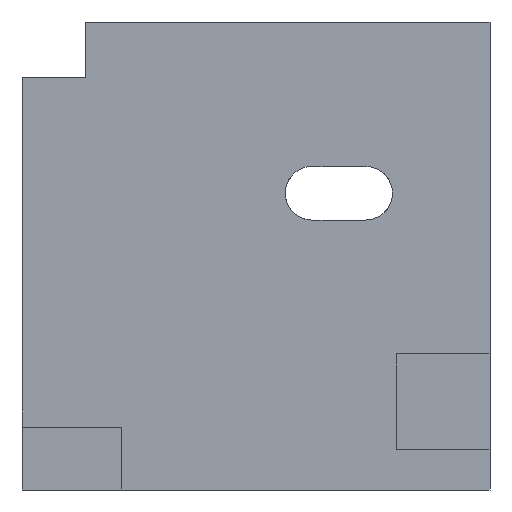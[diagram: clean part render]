
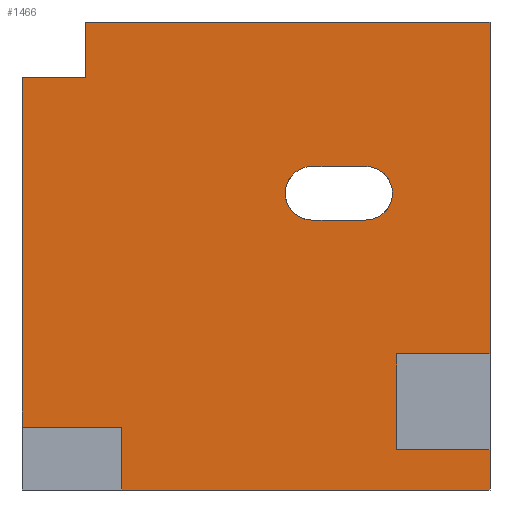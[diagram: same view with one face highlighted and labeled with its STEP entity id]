
A CAD part, left-side view. The second image highlights one B-rep face of the part: STEP entity #1466.
In plain terms, the highlighted planar face has unit normal (-1, 0, 0).
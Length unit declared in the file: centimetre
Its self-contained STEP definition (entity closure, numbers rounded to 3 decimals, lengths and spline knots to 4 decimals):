
#2 = DIRECTION ( 'NONE',  ( 0., -1., 0. ) ) ;
#5 = DIRECTION ( 'NONE',  ( 0., 0., 1. ) ) ;
#15 = EDGE_CURVE ( 'NONE', #85, #389, #82, .T. ) ;
#27 = EDGE_CURVE ( 'NONE', #1217, #275, #325, .T. ) ;
#45 = DIRECTION ( 'NONE',  ( 0., 0., -1. ) ) ;
#54 = CARTESIAN_POINT ( 'NONE',  ( 0., 0., 1000. ) ) ;
#61 = ORIENTED_EDGE ( 'NONE', *, *, #15, .F. ) ;
#69 = VECTOR ( 'NONE', #1062, 100. ) ;
#70 = AXIS2_PLACEMENT_3D ( 'NONE', #1176, #1537, #1673 ) ;
#82 = LINE ( 'NONE', #1356, #1614 ) ;
#85 = VERTEX_POINT ( 'NONE', #1403 ) ;
#97 = CARTESIAN_POINT ( 'NONE',  ( 0., 863.4377, 882.0177 ) ) ;
#128 = CARTESIAN_POINT ( 'NONE',  ( 0., 863.4377, 882.0177 ) ) ;
#167 = ORIENTED_EDGE ( 'NONE', *, *, #1345, .F. ) ;
#174 = LINE ( 'NONE', #54, #228 ) ;
#181 = LINE ( 'NONE', #1368, #1025 ) ;
#197 = VERTEX_POINT ( 'NONE', #97 ) ;
#205 = CIRCLE ( 'NONE', #70, 57.11 ) ;
#208 = EDGE_CURVE ( 'NONE', #327, #1482, #1549, .T. ) ;
#211 = ORIENTED_EDGE ( 'NONE', *, *, #610, .F. ) ;
#228 = VECTOR ( 'NONE', #45, 100. ) ;
#230 = CARTESIAN_POINT ( 'NONE',  ( 0., 265.3615, 633.9658 ) ) ;
#252 = LINE ( 'NONE', #128, #1509 ) ;
#261 = VERTEX_POINT ( 'NONE', #690 ) ;
#263 = CARTESIAN_POINT ( 'NONE',  ( 0., 380.7137, 691.0757 ) ) ;
#266 = CARTESIAN_POINT ( 'NONE',  ( 0., 199.0319, 85.9414 ) ) ;
#275 = VERTEX_POINT ( 'NONE', #821 ) ;
#286 = VECTOR ( 'NONE', #1098, 100. ) ;
#317 = DIRECTION ( 'NONE',  ( 0., 1., 0. ) ) ;
#325 = LINE ( 'NONE', #1615, #1286 ) ;
#327 = VERTEX_POINT ( 'NONE', #266 ) ;
#329 = EDGE_CURVE ( 'NONE', #1680, #327, #792, .T. ) ;
#356 = CARTESIAN_POINT ( 'NONE',  ( 0., 380.7137, 691.0757 ) ) ;
#389 = VERTEX_POINT ( 'NONE', #1606 ) ;
#418 = VERTEX_POINT ( 'NONE', #863 ) ;
#424 = ORIENTED_EDGE ( 'NONE', *, *, #538, .T. ) ;
#430 = EDGE_CURVE ( 'NONE', #942, #1217, #716, .T. ) ;
#439 = ORIENTED_EDGE ( 'NONE', *, *, #1588, .F. ) ;
#443 = DIRECTION ( 'NONE',  ( 0., 0., -1. ) ) ;
#538 = EDGE_CURVE ( 'NONE', #261, #275, #1401, .T. ) ;
#540 = LINE ( 'NONE', #772, #837 ) ;
#544 = CARTESIAN_POINT ( 'NONE',  ( 0., 199.0319, 85.9414 ) ) ;
#547 = FACE_BOUND ( 'NONE', #1239, .T. ) ;
#559 = VECTOR ( 'NONE', #1034, 100. ) ;
#576 = CARTESIAN_POINT ( 'NONE',  ( 0., 787.3237, 0. ) ) ;
#610 = EDGE_CURVE ( 'NONE', #683, #418, #782, .T. ) ;
#614 = VECTOR ( 'NONE', #947, 100. ) ;
#637 = EDGE_CURVE ( 'NONE', #197, #770, #252, .T. ) ;
#640 = ORIENTED_EDGE ( 'NONE', *, *, #208, .F. ) ;
#649 = VECTOR ( 'NONE', #674, 100. ) ;
#652 = LINE ( 'NONE', #1163, #559 ) ;
#674 = DIRECTION ( 'NONE',  ( 0., 1., 0. ) ) ;
#683 = VERTEX_POINT ( 'NONE', #1448 ) ;
#685 = CARTESIAN_POINT ( 'NONE',  ( 0., 1000., 1000. ) ) ;
#690 = CARTESIAN_POINT ( 'NONE',  ( 0., 1000., 882.0177 ) ) ;
#699 = EDGE_CURVE ( 'NONE', #942, #1612, #790, .T. ) ;
#703 = DIRECTION ( 'NONE',  ( 0., -1., 0. ) ) ;
#716 = LINE ( 'NONE', #576, #286 ) ;
#767 = EDGE_CURVE ( 'NONE', #1110, #683, #181, .T. ) ;
#770 = VERTEX_POINT ( 'NONE', #1230 ) ;
#772 = CARTESIAN_POINT ( 'NONE',  ( 0., 863.4377, 882.0177 ) ) ;
#775 = ORIENTED_EDGE ( 'NONE', *, *, #329, .F. ) ;
#782 = CIRCLE ( 'NONE', #1000, 57.11 ) ;
#790 = LINE ( 'NONE', #1694, #1383 ) ;
#792 = LINE ( 'NONE', #544, #69 ) ;
#801 = CARTESIAN_POINT ( 'NONE',  ( 0., 0., 290.797 ) ) ;
#821 = CARTESIAN_POINT ( 'NONE',  ( 0., 1000., 134.5369 ) ) ;
#837 = VECTOR ( 'NONE', #2, 100. ) ;
#863 = CARTESIAN_POINT ( 'NONE',  ( 0., 265.3615, 691.0757 ) ) ;
#935 = DIRECTION ( 'NONE',  ( 0., -1., 0. ) ) ;
#942 = VERTEX_POINT ( 'NONE', #1695 ) ;
#947 = DIRECTION ( 'NONE',  ( 0., -1., 0. ) ) ;
#994 = ORIENTED_EDGE ( 'NONE', *, *, #1096, .F. ) ;
#996 = DIRECTION ( 'NONE',  ( 0., 0., -1. ) ) ;
#998 = AXIS2_PLACEMENT_3D ( 'NONE', #685, #1487, #443 ) ;
#1000 = AXIS2_PLACEMENT_3D ( 'NONE', #230, #1506, #1274 ) ;
#1025 = VECTOR ( 'NONE', #703, 100. ) ;
#1032 = ORIENTED_EDGE ( 'NONE', *, *, #27, .F. ) ;
#1034 = DIRECTION ( 'NONE',  ( 0., -1., 0. ) ) ;
#1062 = DIRECTION ( 'NONE',  ( 0., 0., -1. ) ) ;
#1096 = EDGE_CURVE ( 'NONE', #770, #85, #652, .T. ) ;
#1098 = DIRECTION ( 'NONE',  ( 0., 0., 1. ) ) ;
#1110 = VERTEX_POINT ( 'NONE', #1548 ) ;
#1118 = VERTEX_POINT ( 'NONE', #356 ) ;
#1129 = ORIENTED_EDGE ( 'NONE', *, *, #1367, .F. ) ;
#1147 = EDGE_CURVE ( 'NONE', #1482, #1612, #174, .T. ) ;
#1157 = VECTOR ( 'NONE', #1394, 100. ) ;
#1163 = CARTESIAN_POINT ( 'NONE',  ( 0., 1000., 1000. ) ) ;
#1176 = CARTESIAN_POINT ( 'NONE',  ( 0., 380.7137, 633.9658 ) ) ;
#1209 = DIRECTION ( 'NONE',  ( 0., 1., 0. ) ) ;
#1217 = VERTEX_POINT ( 'NONE', #1291 ) ;
#1225 = ORIENTED_EDGE ( 'NONE', *, *, #637, .F. ) ;
#1230 = CARTESIAN_POINT ( 'NONE',  ( 0., 863.4377, 1000. ) ) ;
#1239 = EDGE_LOOP ( 'NONE', ( #1398, #211, #1496, #1129 ) ) ;
#1274 = DIRECTION ( 'NONE',  ( 0., 0., -1. ) ) ;
#1280 = CARTESIAN_POINT ( 'NONE',  ( 0., 1000., 1000. ) ) ;
#1286 = VECTOR ( 'NONE', #317, 100. ) ;
#1291 = CARTESIAN_POINT ( 'NONE',  ( 0., 787.3237, 134.5369 ) ) ;
#1306 = EDGE_CURVE ( 'NONE', #418, #1118, #1433, .T. ) ;
#1308 = ORIENTED_EDGE ( 'NONE', *, *, #1147, .F. ) ;
#1320 = CARTESIAN_POINT ( 'NONE',  ( 0., 0., 85.9414 ) ) ;
#1334 = CARTESIAN_POINT ( 'NONE',  ( 0., 0., 0. ) ) ;
#1338 = ORIENTED_EDGE ( 'NONE', *, *, #699, .T. ) ;
#1341 = CARTESIAN_POINT ( 'NONE',  ( 0., 0., 85.9414 ) ) ;
#1345 = EDGE_CURVE ( 'NONE', #261, #197, #540, .T. ) ;
#1356 = CARTESIAN_POINT ( 'NONE',  ( 0., 0., 1000. ) ) ;
#1358 = PLANE ( 'NONE',  #998 ) ;
#1367 = EDGE_CURVE ( 'NONE', #1118, #1110, #205, .T. ) ;
#1368 = CARTESIAN_POINT ( 'NONE',  ( 0., 265.3615, 576.8558 ) ) ;
#1383 = VECTOR ( 'NONE', #935, 100. ) ;
#1390 = ORIENTED_EDGE ( 'NONE', *, *, #430, .F. ) ;
#1394 = DIRECTION ( 'NONE',  ( 0., 0., -1. ) ) ;
#1398 = ORIENTED_EDGE ( 'NONE', *, *, #1306, .F. ) ;
#1401 = LINE ( 'NONE', #1280, #1157 ) ;
#1403 = CARTESIAN_POINT ( 'NONE',  ( 0., 0., 1000. ) ) ;
#1430 = VECTOR ( 'NONE', #1209, 100. ) ;
#1433 = LINE ( 'NONE', #263, #649 ) ;
#1448 = CARTESIAN_POINT ( 'NONE',  ( 0., 265.3615, 576.8558 ) ) ;
#1452 = CARTESIAN_POINT ( 'NONE',  ( 0., 199.0319, 290.797 ) ) ;
#1466 = ADVANCED_FACE ( 'NONE', ( #547, #1610 ), #1358, .F. ) ;
#1482 = VERTEX_POINT ( 'NONE', #1341 ) ;
#1487 = DIRECTION ( 'NONE',  ( 1., 0., 0. ) ) ;
#1496 = ORIENTED_EDGE ( 'NONE', *, *, #767, .F. ) ;
#1506 = DIRECTION ( 'NONE',  ( -1., 0., 0. ) ) ;
#1509 = VECTOR ( 'NONE', #5, 100. ) ;
#1537 = DIRECTION ( 'NONE',  ( -1., 0., 0. ) ) ;
#1548 = CARTESIAN_POINT ( 'NONE',  ( 0., 380.7137, 576.8558 ) ) ;
#1549 = LINE ( 'NONE', #1320, #614 ) ;
#1588 = EDGE_CURVE ( 'NONE', #389, #1680, #1601, .T. ) ;
#1601 = LINE ( 'NONE', #801, #1430 ) ;
#1606 = CARTESIAN_POINT ( 'NONE',  ( 0., 0., 290.797 ) ) ;
#1610 = FACE_OUTER_BOUND ( 'NONE', #1664, .T. ) ;
#1612 = VERTEX_POINT ( 'NONE', #1334 ) ;
#1614 = VECTOR ( 'NONE', #996, 100. ) ;
#1615 = CARTESIAN_POINT ( 'NONE',  ( 0., 787.3237, 134.5369 ) ) ;
#1664 = EDGE_LOOP ( 'NONE', ( #424, #1032, #1390, #1338, #1308, #640, #775, #439, #61, #994, #1225, #167 ) ) ;
#1673 = DIRECTION ( 'NONE',  ( 0., 0., -1. ) ) ;
#1680 = VERTEX_POINT ( 'NONE', #1452 ) ;
#1694 = CARTESIAN_POINT ( 'NONE',  ( 0., 1000., 0. ) ) ;
#1695 = CARTESIAN_POINT ( 'NONE',  ( 0., 787.3237, 0. ) ) ;
